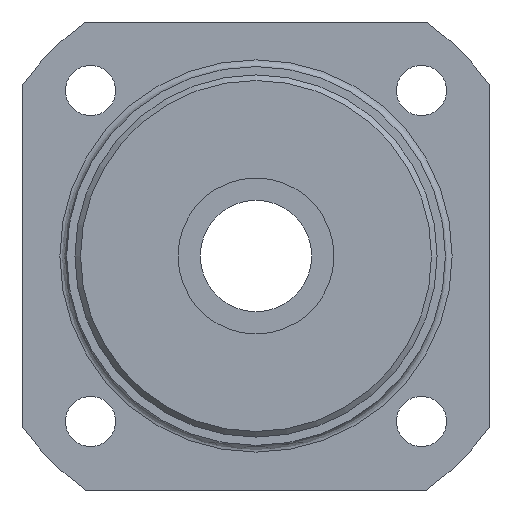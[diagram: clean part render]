
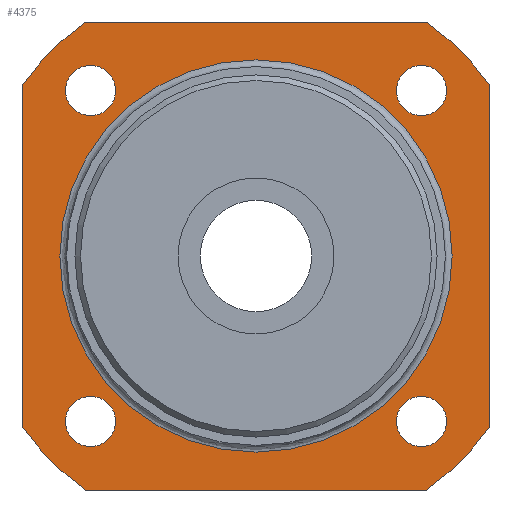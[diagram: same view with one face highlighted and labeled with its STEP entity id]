
A CAD part, left-side view. The second image highlights one B-rep face of the part: STEP entity #4375.
In plain terms, the highlighted planar face has unit normal (-1, 0, 0).
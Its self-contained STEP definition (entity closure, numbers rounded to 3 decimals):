
#3274=CARTESIAN_POINT('',(-10.0,-17.099,-14.849));
#3275=VERTEX_POINT('',#3274);
#3276=CARTESIAN_POINT('',(-10.0,-14.849,-14.849));
#3277=DIRECTION('',(1.0,0.0,0.0));
#3278=DIRECTION('',(0.0,1.0,0.0));
#3279=AXIS2_PLACEMENT_3D('',#3276,#3277,#3278);
#3280=CIRCLE('',#3279,2.25);
#3281=EDGE_CURVE('',#3275,#3275,#3280,.T.);
#3376=CARTESIAN_POINT('',(-10.0,12.599,14.849));
#3377=VERTEX_POINT('',#3376);
#3378=CARTESIAN_POINT('',(-10.0,14.849,14.849));
#3379=DIRECTION('',(1.0,0.0,0.0));
#3380=DIRECTION('',(0.0,1.0,0.0));
#3381=AXIS2_PLACEMENT_3D('',#3378,#3379,#3380);
#3382=CIRCLE('',#3381,2.25);
#3383=EDGE_CURVE('',#3377,#3377,#3382,.T.);
#3478=CARTESIAN_POINT('',(-10.0,-17.099,14.849));
#3479=VERTEX_POINT('',#3478);
#3480=CARTESIAN_POINT('',(-10.0,-14.849,14.849));
#3481=DIRECTION('',(1.0,0.0,0.0));
#3482=DIRECTION('',(0.0,1.0,0.0));
#3483=AXIS2_PLACEMENT_3D('',#3480,#3481,#3482);
#3484=CIRCLE('',#3483,2.25);
#3485=EDGE_CURVE('',#3479,#3479,#3484,.T.);
#3580=CARTESIAN_POINT('',(-10.0,12.599,-14.849));
#3581=VERTEX_POINT('',#3580);
#3582=CARTESIAN_POINT('',(-10.0,14.849,-14.849));
#3583=DIRECTION('',(1.0,0.0,0.0));
#3584=DIRECTION('',(0.0,1.0,0.0));
#3585=AXIS2_PLACEMENT_3D('',#3582,#3583,#3584);
#3586=CIRCLE('',#3585,2.25);
#3587=EDGE_CURVE('',#3581,#3581,#3586,.T.);
#4058=CARTESIAN_POINT('',(-10.0,-15.33,21.));
#4059=VERTEX_POINT('',#4058);
#4060=CARTESIAN_POINT('',(-10.0,15.33,21.));
#4061=VERTEX_POINT('',#4060);
#4062=CARTESIAN_POINT('',(-10.0,-15.33,21.));
#4063=DIRECTION('',(0.0,1.0,0.0));
#4064=VECTOR('',#4063,30.659);
#4065=LINE('',#4062,#4064);
#4066=EDGE_CURVE('',#4059,#4061,#4065,.T.);
#4089=CARTESIAN_POINT('',(-10.0,15.33,-21.));
#4090=VERTEX_POINT('',#4089);
#4091=CARTESIAN_POINT('',(-10.0,-15.33,-21.));
#4092=VERTEX_POINT('',#4091);
#4093=CARTESIAN_POINT('',(-10.0,15.33,-21.));
#4094=DIRECTION('',(0.0,-1.0,0.0));
#4095=VECTOR('',#4094,30.659);
#4096=LINE('',#4093,#4095);
#4097=EDGE_CURVE('',#4090,#4092,#4096,.T.);
#4120=CARTESIAN_POINT('',(-10.0,21.,15.33));
#4121=VERTEX_POINT('',#4120);
#4122=CARTESIAN_POINT('',(-10.0,21.,-15.33));
#4123=VERTEX_POINT('',#4122);
#4124=CARTESIAN_POINT('',(-10.0,21.,15.33));
#4125=DIRECTION('',(0.0,0.0,-1.0));
#4126=VECTOR('',#4125,30.659);
#4127=LINE('',#4124,#4126);
#4128=EDGE_CURVE('',#4121,#4123,#4127,.T.);
#4151=CARTESIAN_POINT('',(-10.0,-21.,-15.33));
#4152=VERTEX_POINT('',#4151);
#4153=CARTESIAN_POINT('',(-10.0,-21.,15.33));
#4154=VERTEX_POINT('',#4153);
#4155=CARTESIAN_POINT('',(-10.0,-21.,-15.33));
#4156=DIRECTION('',(0.0,0.0,1.0));
#4157=VECTOR('',#4156,30.659);
#4158=LINE('',#4155,#4157);
#4159=EDGE_CURVE('',#4152,#4154,#4158,.T.);
#4183=CARTESIAN_POINT('',(-10.0,0.0,0.0));
#4184=DIRECTION('',(1.0,0.0,0.0));
#4185=DIRECTION('',(0.0,1.0,0.0));
#4186=AXIS2_PLACEMENT_3D('',#4183,#4184,#4185);
#4187=CIRCLE('',#4186,26.0);
#4188=EDGE_CURVE('',#4059,#4154,#4187,.T.);
#4203=CARTESIAN_POINT('',(-10.0,0.0,0.0));
#4204=DIRECTION('',(1.0,0.0,0.0));
#4205=DIRECTION('',(0.0,1.0,0.0));
#4206=AXIS2_PLACEMENT_3D('',#4203,#4204,#4205);
#4207=CIRCLE('',#4206,26.0);
#4208=EDGE_CURVE('',#4152,#4092,#4207,.T.);
#4219=CARTESIAN_POINT('',(-10.0,0.0,0.0));
#4220=DIRECTION('',(1.0,0.0,0.0));
#4221=DIRECTION('',(0.0,1.0,0.0));
#4222=AXIS2_PLACEMENT_3D('',#4219,#4220,#4221);
#4223=CIRCLE('',#4222,26.0);
#4224=EDGE_CURVE('',#4090,#4123,#4223,.T.);
#4324=CARTESIAN_POINT('',(-10.0,17.6,0.0));
#4325=VERTEX_POINT('',#4324);
#4326=CARTESIAN_POINT('',(-10.0,0.0,0.0));
#4327=DIRECTION('',(1.0,0.0,0.0));
#4328=DIRECTION('',(0.0,1.0,0.0));
#4329=AXIS2_PLACEMENT_3D('',#4326,#4327,#4328);
#4330=CIRCLE('',#4329,17.6);
#4331=EDGE_CURVE('',#4325,#4325,#4330,.T.);
#4339=CARTESIAN_POINT('',(-10.0,21.8,0.0));
#4340=DIRECTION('',(-1.0,0.0,0.0));
#4341=DIRECTION('',(0.0,0.0,1.0));
#4342=AXIS2_PLACEMENT_3D('',#4339,#4340,#4341);
#4343=PLANE('',#4342);
#4344=ORIENTED_EDGE('',*,*,#4066,.T.);
#4345=CARTESIAN_POINT('',(-10.0,0.0,0.0));
#4346=DIRECTION('',(1.0,0.0,0.0));
#4347=DIRECTION('',(0.0,1.0,0.0));
#4348=AXIS2_PLACEMENT_3D('',#4345,#4346,#4347);
#4349=CIRCLE('',#4348,26.0);
#4350=EDGE_CURVE('',#4121,#4061,#4349,.T.);
#4351=ORIENTED_EDGE('',*,*,#4350,.F.);
#4352=ORIENTED_EDGE('',*,*,#4128,.T.);
#4353=ORIENTED_EDGE('',*,*,#4224,.F.);
#4354=ORIENTED_EDGE('',*,*,#4097,.T.);
#4355=ORIENTED_EDGE('',*,*,#4208,.F.);
#4356=ORIENTED_EDGE('',*,*,#4159,.T.);
#4357=ORIENTED_EDGE('',*,*,#4188,.F.);
#4358=EDGE_LOOP('',(#4344,#4351,#4352,#4353,#4354,#4355,#4356,#4357));
#4359=FACE_OUTER_BOUND('',#4358,.T.);
#4360=ORIENTED_EDGE('',*,*,#3281,.T.);
#4361=EDGE_LOOP('',(#4360));
#4362=FACE_BOUND('',#4361,.T.);
#4363=ORIENTED_EDGE('',*,*,#3383,.T.);
#4364=EDGE_LOOP('',(#4363));
#4365=FACE_BOUND('',#4364,.T.);
#4366=ORIENTED_EDGE('',*,*,#3485,.T.);
#4367=EDGE_LOOP('',(#4366));
#4368=FACE_BOUND('',#4367,.T.);
#4369=ORIENTED_EDGE('',*,*,#3587,.T.);
#4370=EDGE_LOOP('',(#4369));
#4371=FACE_BOUND('',#4370,.T.);
#4372=ORIENTED_EDGE('',*,*,#4331,.T.);
#4373=EDGE_LOOP('',(#4372));
#4374=FACE_BOUND('',#4373,.T.);
#4375=ADVANCED_FACE('',(#4359,#4362,#4365,#4368,#4371,#4374),#4343,.T.);
